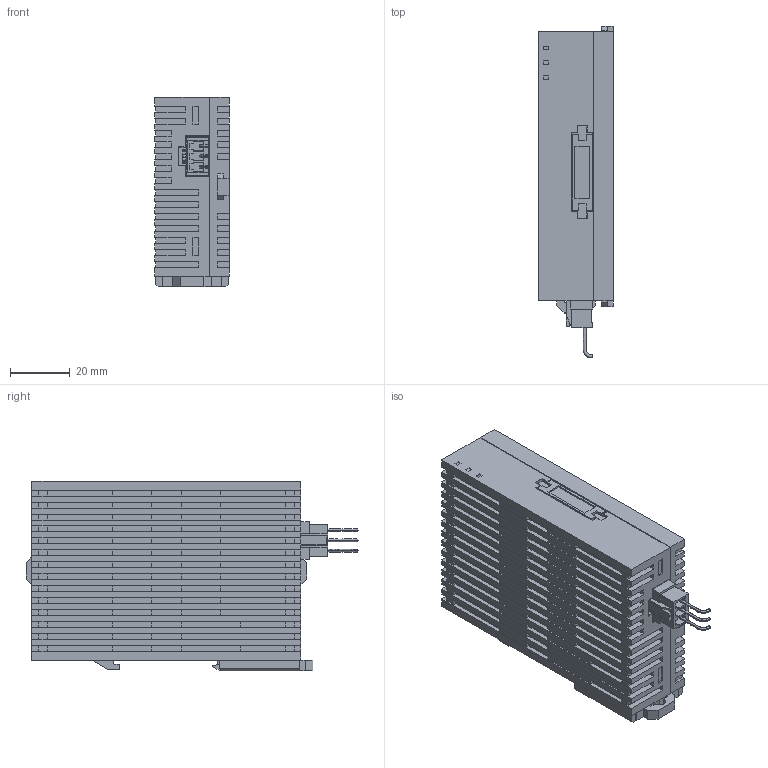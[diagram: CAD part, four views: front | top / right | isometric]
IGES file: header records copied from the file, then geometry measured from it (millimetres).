
Global section: preprocessor: SolidWorks 2008; organization: PanasonicElectricWorks; date: 090828.105058; units: millimetre
Bounding box: 25 x 111.19 x 63.5 mm (x, y, z)
Surface area: 27594 mm2 (no closed solid volume)
Topology: 0 solids, 0 shells, 734 faces, 4721 edges, 4719 vertices
Faces by surface type: bspline 703, revolution 31
